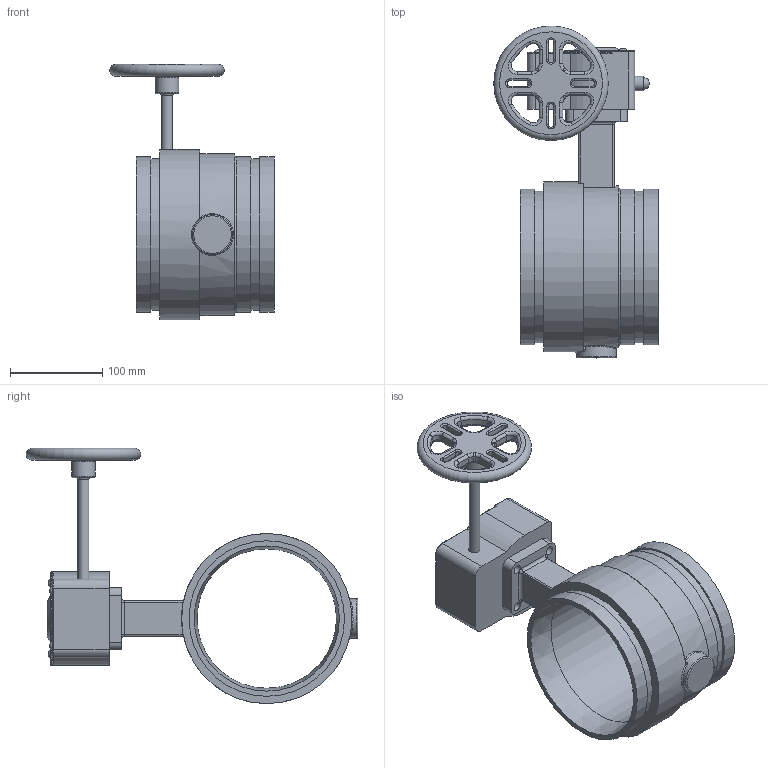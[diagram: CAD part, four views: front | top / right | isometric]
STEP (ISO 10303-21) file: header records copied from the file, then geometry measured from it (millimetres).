
FILE_DESCRIPTION(/* description */ ('VIC SS VALVE BUTTERFLY VIC 300 MASTERSEAL GO SERIES 861 (POTABLE WATER)','CAx-IF Rec.Pracs.---Representation and Presentation of Product Manufacturing Information (PMI)---4.0---2014-10-13'),/* implementation_level */ '2;1');
FILE_NAME(/* name */ 'C:\Users\kkamble\AppData\Roaming\Autodesk\ApplicationPlugins\Back Up\Victaulic_SS_Valve Butterfly Vic-300 Masterseal GO_Series 861 (OGS)-Potable Water\Victaulic_SS_Valve Butterfly Vic-300 Masterseal GO_6 (150).stp',/* time_stamp */ '2020-04-23T17:59:01+05:00',/* author */ ('kkamble'),/* organization */ ('Victaulic'),/* preprocessor_version */ 'ST-DEVELOPER v17.2',/* originating_system */ 'Autodesk Inventor 2019',/* authorisation */ '');
FILE_SCHEMA (('AP242_MANAGED_MODEL_BASED_3D_ENGINEERING_MIM_LF { 1 0 10303 442 1 1 4 }'));
Length unit declared in the file: inch
Products named in the file (3): 861-06.0; 861-06.0_1; 861-06.0_2
Assembly tree (2 placements, depth 2):
  861-06.0
    861-06.0_1
    861-06.0_2
Bounding box: 178.05 x 358.9 x 276.23 mm (x, y, z)
Volume: 1823511.7 mm3; surface area: 279531.6 mm2
Topology: 2 solids, 2 shells, 361 faces, 854 edges, 520 vertices
Faces by surface type: cylinder 141, plane 96, torus 93, bspline 16, sphere 12, cone 3
Full cylindrical faces by diameter (mm): 7.938 x4, 9.652 x4, 11.938 x1, 12.7 x2, 15.875 x2, 25.4 x1, 43.18 x1, 50.8 x1, 54.102 x1, 150.876 x1, 163.957 x2, 168.275 x3, 175.26 x1, 184.15 x1
Entity records: 11699 total; most frequent: CARTESIAN_POINT 2550, DIRECTION 2015, ORIENTED_EDGE 1696, AXIS2_PLACEMENT_3D 852, EDGE_CURVE 848, VERTEX_POINT 520, CIRCLE 498, EDGE_LOOP 416
